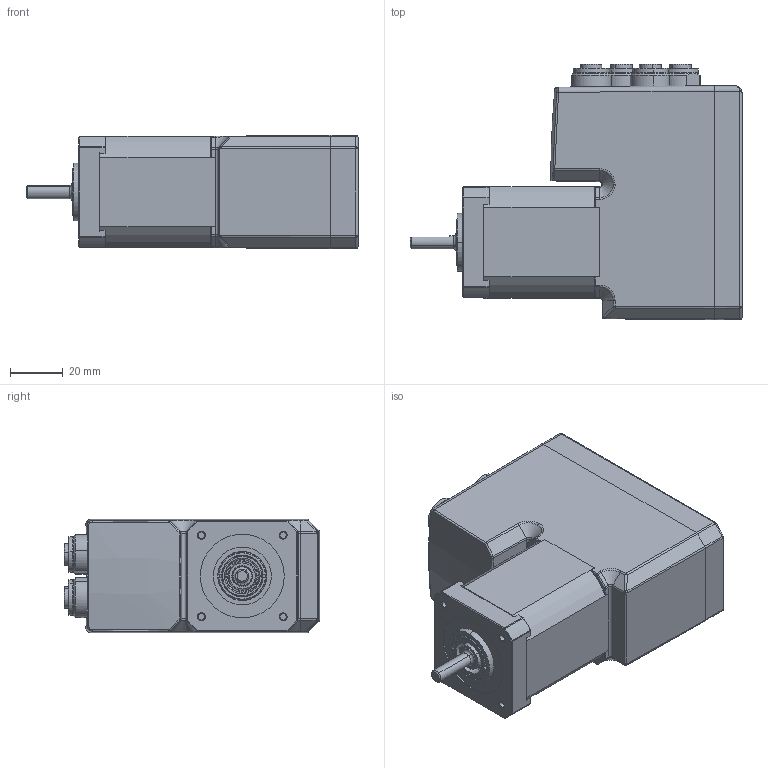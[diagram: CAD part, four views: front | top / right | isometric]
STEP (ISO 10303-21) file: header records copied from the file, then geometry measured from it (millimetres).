
FILE_DESCRIPTION((''),'2;1');
FILE_NAME('STEPPERASSY_ASM','2023-05-28T11:47:01',('Administrator'),(''),'CREO PARAMETRIC BY PTC INC, 2022014','CREO PARAMETRIC BY PTC INC, 2022014','');
FILE_SCHEMA(('AUTOMOTIVE_DESIGN { 1 0 10303 214 1 1 1 1 }'));
Length unit declared in the file: millimetre
Products named in the file (7): CONNECTOR_RADIAL; BODY; FRONT; SHAFT_5; SEALING; MIS17_ASM; STEPPERASSY_ASM
Assembly tree (6 placements, depth 3):
  STEPPERASSY_ASM
    MIS17_ASM
      CONNECTOR_RADIAL
      BODY
      FRONT
      SHAFT_5
      SEALING
Bounding box: 126 x 96.94 x 43.06 mm (x, y, z)
Volume: 320081.2 mm3; surface area: 43902.4 mm2
Topology: 5 solids, 5 shells, 524 faces, 1199 edges, 704 vertices
Faces by surface type: plane 180, cylinder 175, cone 82, bspline 43, torus 40, sphere 4
Entity records: 24640 total; most frequent: CARTESIAN_POINT 5477, DIRECTION 2702, ORIENTED_EDGE 2374, EDGE_CURVE 1187, AXIS2_PLACEMENT_3D 1063, FILL_AREA_STYLE_COLOUR 766, FILL_AREA_STYLE 766, SURFACE_STYLE_FILL_AREA 766
